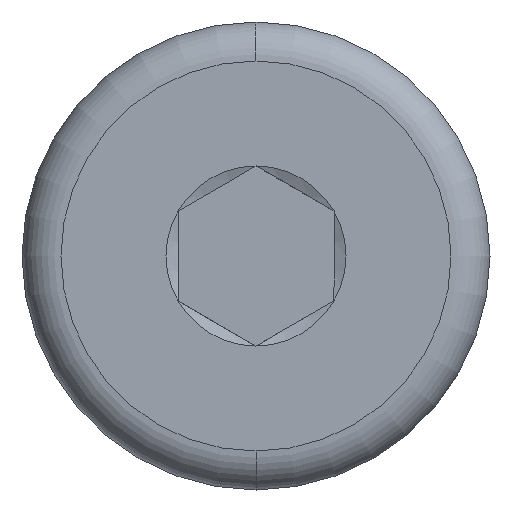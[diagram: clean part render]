
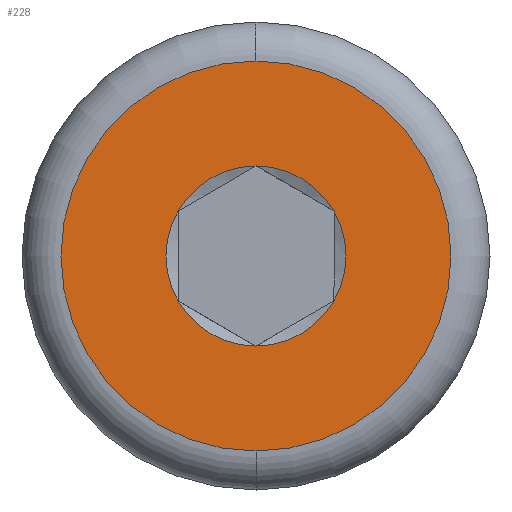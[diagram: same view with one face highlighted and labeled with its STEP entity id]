
A CAD part, left-side view. The second image highlights one B-rep face of the part: STEP entity #228.
In plain terms, the highlighted planar face has unit normal (-1, 0, 0).
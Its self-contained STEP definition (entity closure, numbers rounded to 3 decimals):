
#28 = FACE_BOUND ( 'NONE', #661, .T. ) ;
#31 = DIRECTION ( 'NONE',  ( 1., 0., 0. ) ) ;
#56 = ORIENTED_EDGE ( 'NONE', *, *, #176, .T. ) ;
#68 = DIRECTION ( 'NONE',  ( 0., 0., -1. ) ) ;
#72 = CARTESIAN_POINT ( 'NONE',  ( 0., 0., 0. ) ) ;
#90 = CARTESIAN_POINT ( 'NONE',  ( 0., -1., 0.577 ) ) ;
#101 = DIRECTION ( 'NONE',  ( 1., 0., 0. ) ) ;
#104 = CARTESIAN_POINT ( 'NONE',  ( 0., -1., -0.577 ) ) ;
#115 = EDGE_CURVE ( 'NONE', #435, #365, #484, .T. ) ;
#117 = EDGE_CURVE ( 'NONE', #191, #356, #274, .T. ) ;
#118 = DIRECTION ( 'NONE',  ( 0., 0., -1. ) ) ;
#124 = DIRECTION ( 'NONE',  ( 1., 0., 0. ) ) ;
#127 = CARTESIAN_POINT ( 'NONE',  ( 0., 0., 0. ) ) ;
#144 = VERTEX_POINT ( 'NONE', #646 ) ;
#153 = AXIS2_PLACEMENT_3D ( 'NONE', #455, #31, #462 ) ;
#157 = DIRECTION ( 'NONE',  ( 1., 0., 0. ) ) ;
#160 = DIRECTION ( 'NONE',  ( 1., 0., 0. ) ) ;
#162 = CIRCLE ( 'NONE', #450, 1.155 ) ;
#163 = CIRCLE ( 'NONE', #153, 1.155 ) ;
#168 = FACE_OUTER_BOUND ( 'NONE', #664, .T. ) ;
#175 = DIRECTION ( 'NONE',  ( 0., 0., -1. ) ) ;
#176 = EDGE_CURVE ( 'NONE', #365, #515, #162, .T. ) ;
#183 = DIRECTION ( 'NONE',  ( 0., 0., 1. ) ) ;
#191 = VERTEX_POINT ( 'NONE', #334 ) ;
#196 = CIRCLE ( 'NONE', #287, 1.155 ) ;
#205 = DIRECTION ( 'NONE',  ( 0., 0., -1. ) ) ;
#207 = AXIS2_PLACEMENT_3D ( 'NONE', #72, #442, #175 ) ;
#215 = DIRECTION ( 'NONE',  ( 0., 0., -1. ) ) ;
#224 = DIRECTION ( 'NONE',  ( 0., 0., -1. ) ) ;
#225 = CARTESIAN_POINT ( 'NONE',  ( 0., 0., 0. ) ) ;
#226 = VERTEX_POINT ( 'NONE', #643 ) ;
#228 = ADVANCED_FACE ( 'NONE', ( #28, #168 ), #489, .T. ) ;
#235 = DIRECTION ( 'NONE',  ( 0., 0., -1. ) ) ;
#242 = VERTEX_POINT ( 'NONE', #609 ) ;
#254 = CIRCLE ( 'NONE', #486, 1.155 ) ;
#263 = EDGE_CURVE ( 'NONE', #356, #435, #163, .T. ) ;
#274 = CIRCLE ( 'NONE', #286, 1.155 ) ;
#280 = ORIENTED_EDGE ( 'NONE', *, *, #518, .F. ) ;
#286 = AXIS2_PLACEMENT_3D ( 'NONE', #127, #603, #118 ) ;
#287 = AXIS2_PLACEMENT_3D ( 'NONE', #416, #578, #68 ) ;
#311 = CARTESIAN_POINT ( 'NONE',  ( 0., 0., 0. ) ) ;
#315 = CARTESIAN_POINT ( 'NONE',  ( 0., 0., 0. ) ) ;
#334 = CARTESIAN_POINT ( 'NONE',  ( 0., 1., -0.577 ) ) ;
#344 = ORIENTED_EDGE ( 'NONE', *, *, #263, .T. ) ;
#354 = CIRCLE ( 'NONE', #608, 2.5 ) ;
#356 = VERTEX_POINT ( 'NONE', #467 ) ;
#365 = VERTEX_POINT ( 'NONE', #90 ) ;
#372 = CARTESIAN_POINT ( 'NONE',  ( 0., 0., 1.155 ) ) ;
#376 = ORIENTED_EDGE ( 'NONE', *, *, #117, .T. ) ;
#416 = CARTESIAN_POINT ( 'NONE',  ( 0., 0., 0. ) ) ;
#435 = VERTEX_POINT ( 'NONE', #372 ) ;
#437 = DIRECTION ( 'NONE',  ( -1., 0., 0. ) ) ;
#442 = DIRECTION ( 'NONE',  ( 1., 0., 0. ) ) ;
#450 = AXIS2_PLACEMENT_3D ( 'NONE', #492, #124, #235 ) ;
#455 = CARTESIAN_POINT ( 'NONE',  ( 0., 0., 0. ) ) ;
#462 = DIRECTION ( 'NONE',  ( 0., 0., -1. ) ) ;
#467 = CARTESIAN_POINT ( 'NONE',  ( 0., 1., 0.577 ) ) ;
#480 = EDGE_CURVE ( 'NONE', #515, #242, #196, .T. ) ;
#484 = CIRCLE ( 'NONE', #207, 1.155 ) ;
#486 = AXIS2_PLACEMENT_3D ( 'NONE', #315, #160, #224 ) ;
#489 = PLANE ( 'NONE',  #509 ) ;
#492 = CARTESIAN_POINT ( 'NONE',  ( 0., 0., 0. ) ) ;
#509 = AXIS2_PLACEMENT_3D ( 'NONE', #225, #437, #183 ) ;
#515 = VERTEX_POINT ( 'NONE', #104 ) ;
#518 = EDGE_CURVE ( 'NONE', #144, #226, #672, .T. ) ;
#531 = EDGE_CURVE ( 'NONE', #242, #191, #254, .T. ) ;
#537 = CARTESIAN_POINT ( 'NONE',  ( 0., 0., 0. ) ) ;
#539 = EDGE_CURVE ( 'NONE', #226, #144, #354, .T. ) ;
#553 = AXIS2_PLACEMENT_3D ( 'NONE', #537, #101, #215 ) ;
#556 = ORIENTED_EDGE ( 'NONE', *, *, #480, .T. ) ;
#563 = ORIENTED_EDGE ( 'NONE', *, *, #539, .F. ) ;
#569 = ORIENTED_EDGE ( 'NONE', *, *, #531, .T. ) ;
#578 = DIRECTION ( 'NONE',  ( 1., 0., 0. ) ) ;
#603 = DIRECTION ( 'NONE',  ( 1., 0., 0. ) ) ;
#608 = AXIS2_PLACEMENT_3D ( 'NONE', #311, #157, #205 ) ;
#609 = CARTESIAN_POINT ( 'NONE',  ( 0., 0., -1.155 ) ) ;
#643 = CARTESIAN_POINT ( 'NONE',  ( 0., 0., -2.5 ) ) ;
#644 = ORIENTED_EDGE ( 'NONE', *, *, #115, .T. ) ;
#646 = CARTESIAN_POINT ( 'NONE',  ( 0., 0., 2.5 ) ) ;
#661 = EDGE_LOOP ( 'NONE', ( #344, #644, #56, #556, #569, #376 ) ) ;
#664 = EDGE_LOOP ( 'NONE', ( #563, #280 ) ) ;
#672 = CIRCLE ( 'NONE', #553, 2.5 ) ;
